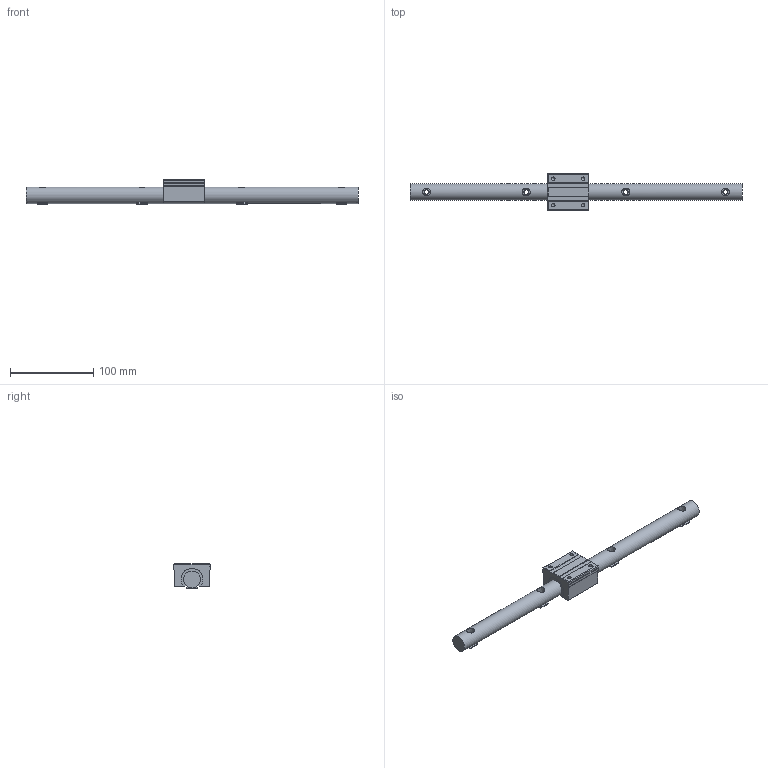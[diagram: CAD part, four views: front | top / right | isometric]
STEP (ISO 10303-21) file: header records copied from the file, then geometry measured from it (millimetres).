
FILE_DESCRIPTION((''),'2;1');
FILE_NAME('D:\製品 (図面)\カタログ用3D\リニアガイド関連\STEP形式\LGR\LGR20.stp','2010-06-02T15:59:37',('Tsuchiya'),(''),'Autodesk Inventor 10','Autodesk Inventor 10','');
FILE_SCHEMA(('AUTOMOTIVE_DESIGN { 1 0 10303 214 1 1 1 1 }'));
Length unit declared in the file: millimetre
Products named in the file (3): LGR20; LGR201; LGR202
Assembly tree (2 placements, depth 2):
  LGR20
    LGR201
    LGR202
Bounding box: 400 x 44 x 30 mm (x, y, z)
Volume: 165789.7 mm3; surface area: 39096.7 mm2
Topology: 2 solids, 2 shells, 114 faces, 298 edges, 201 vertices
Faces by surface type: plane 78, cylinder 17, bspline 17, cone 2
Full cylindrical faces by diameter (mm): 4.134 x2, 5.5 x4, 20 x1
Entity records: 4348 total; most frequent: CARTESIAN_POINT 1662, ORIENTED_EDGE 530, DIRECTION 493, EDGE_CURVE 265, VECTOR 199, LINE 199, VERTEX_POINT 190, EDGE_LOOP 157
